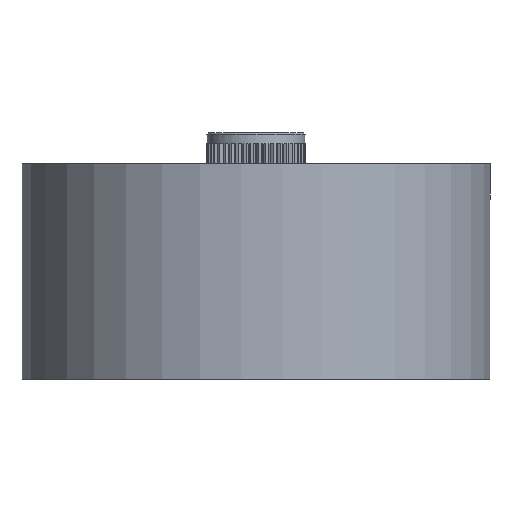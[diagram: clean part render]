
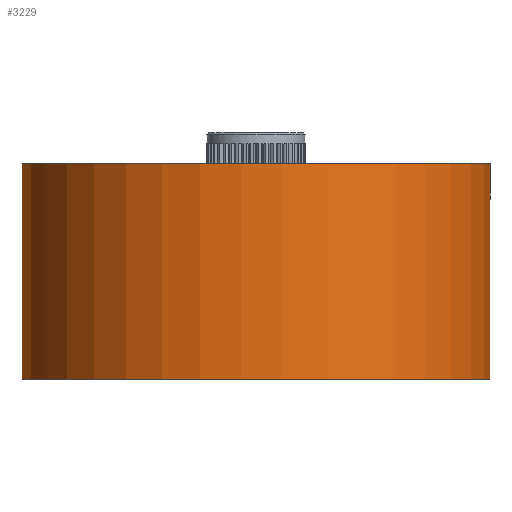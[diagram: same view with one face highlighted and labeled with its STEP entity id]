
A CAD part, front view. The second image highlights one B-rep face of the part: STEP entity #3229.
In plain terms, the highlighted cylindrical face has radius 19 mm (diameter 38 mm), a full revolution.
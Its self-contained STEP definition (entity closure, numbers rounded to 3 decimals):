
#2368=CARTESIAN_POINT('',(10.549,15.802,10.856));
#2369=VERTEX_POINT('',#2368);
#2370=CARTESIAN_POINT('',(0.0,0.0,10.856));
#2371=DIRECTION('',(0.0,0.0,-1.0));
#2372=DIRECTION('',(-0.555,-0.832,0.0));
#2373=AXIS2_PLACEMENT_3D('',#2370,#2371,#2372);
#2374=CIRCLE('',#2373,19.);
#2375=EDGE_CURVE('',#2369,#2369,#2374,.F.);
#3210=CARTESIAN_POINT('',(0.0,0.0,-6.604));
#3211=DIRECTION('',(0.0,0.0,1.0));
#3212=DIRECTION('',(-0.555,-0.832,0.0));
#3213=AXIS2_PLACEMENT_3D('',#3210,#3211,#3212);
#3214=CYLINDRICAL_SURFACE('',#3213,19.);
#3215=ORIENTED_EDGE('',*,*,#2375,.F.);
#3216=EDGE_LOOP('',(#3215));
#3217=FACE_OUTER_BOUND('',#3216,.T.);
#3218=CARTESIAN_POINT('',(10.549,15.802,-6.604));
#3219=VERTEX_POINT('',#3218);
#3220=CARTESIAN_POINT('',(0.0,0.0,-6.604));
#3221=DIRECTION('',(0.0,0.0,1.0));
#3222=DIRECTION('',(-0.555,-0.832,0.0));
#3223=AXIS2_PLACEMENT_3D('',#3220,#3221,#3222);
#3224=CIRCLE('',#3223,19.);
#3225=EDGE_CURVE('',#3219,#3219,#3224,.F.);
#3226=ORIENTED_EDGE('',*,*,#3225,.F.);
#3227=EDGE_LOOP('',(#3226));
#3228=FACE_BOUND('',#3227,.T.);
#3229=ADVANCED_FACE('',(#3217,#3228),#3214,.T.);
